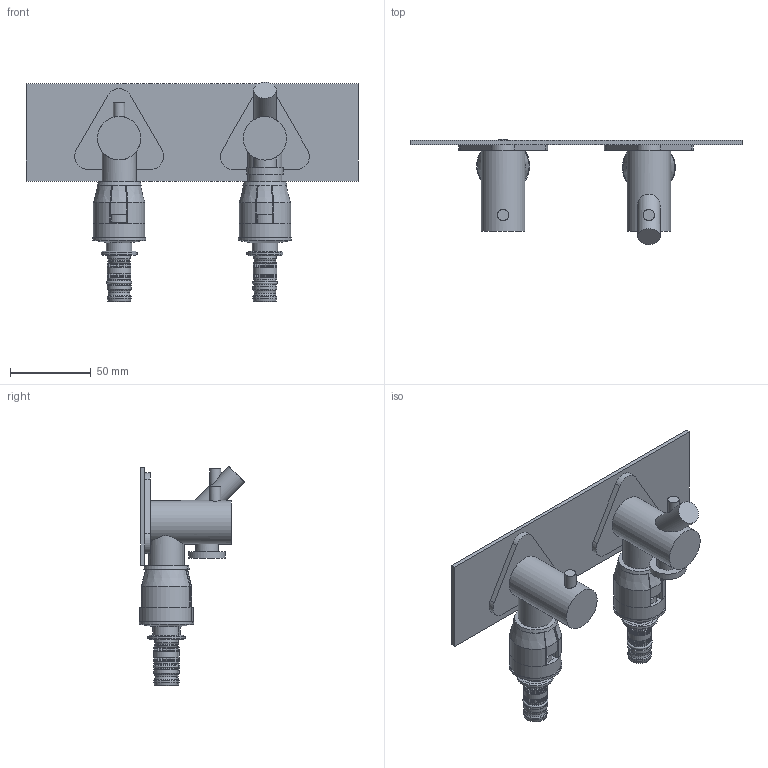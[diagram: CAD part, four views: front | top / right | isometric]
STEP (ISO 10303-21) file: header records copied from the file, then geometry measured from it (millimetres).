
FILE_DESCRIPTION(('STEP AP214'),'1');
FILE_NAME('Instaset_7878.STP','2025-09-23T13:26:26',(' '),(' '),'Spatial InterOp 3D',' ',' ');
FILE_SCHEMA(('AUTOMOTIVE_DESIGN { 1 0 10303 214 1 1 1 1 }'));
Length unit declared in the file: millimetre
Products named in the file (1): Quader
Bounding box: 205 x 65.12 x 135.6 mm (x, y, z)
Volume: 172224.7 mm3; surface area: 100228.6 mm2
Topology: 79 solids, 79 shells, 645 faces, 1427 edges, 940 vertices
Faces by surface type: plane 520, cylinder 69, cone 52, torus 4
Full cylindrical faces by diameter (mm): 7 x2, 10.42 x2, 11.8 x2, 13 x2, 13.3 x2, 13.8 x6, 13.867 x1, 14 x1, 14.66 x4, 14.7 x4, 15 x2, 15.76 x2, 15.8 x2, 20.48 x2, 20.5 x2, 21 x2, 22.36 x2, 22.622 x1, 26.818 x2, 27.2 x2, 29.8 x2, 31.8 x2, 32.7 x2
Entity records: 18322 total; most frequent: CARTESIAN_POINT 3362, DIRECTION 2957, ORIENTED_EDGE 2632, EDGE_CURVE 1316, LINE 1111, VECTOR 1111, VERTEX_POINT 928, AXIS2_PLACEMENT_3D 923
